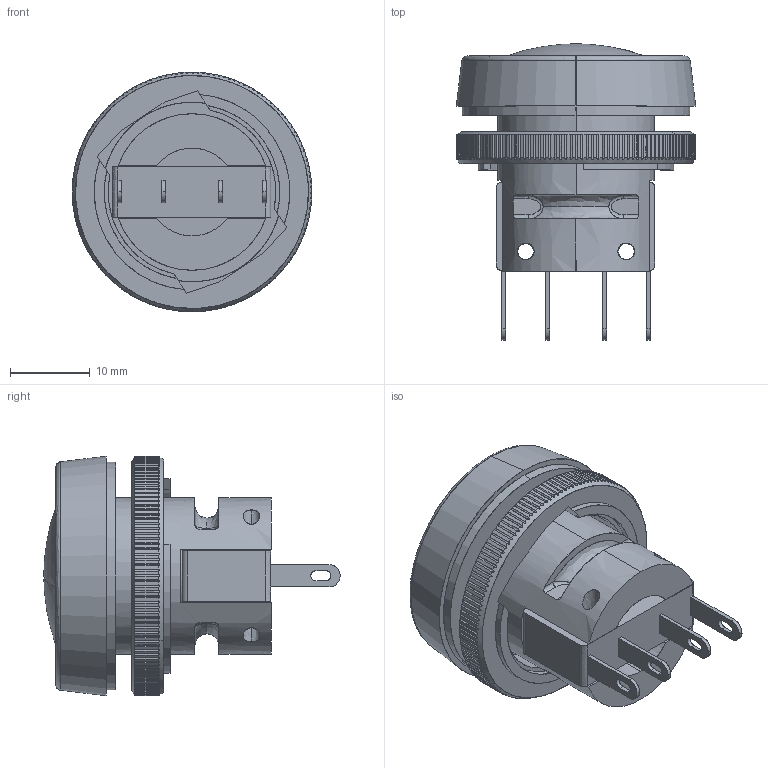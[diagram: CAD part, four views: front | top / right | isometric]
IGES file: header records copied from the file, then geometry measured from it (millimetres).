
Start section: SolidWorks IGES file using analytic representation for surfaces
Global section: file name: C:\Users\Alan_B\Desktop\3D files for IGES and STEP\76-911X-439088.IGS; native system: SolidWorks 2015; preprocessor: SolidWorks 2015; author: Alan_B; date: 160120.144438; units: millimetre
Bounding box: 30 x 37.1 x 30 mm (x, y, z)
Surface area: 6483 mm2 (no closed solid volume)
Topology: 0 solids, 0 shells, 513 faces, 7825 edges, 7824 vertices
Faces by surface type: revolution 426, bspline 87
